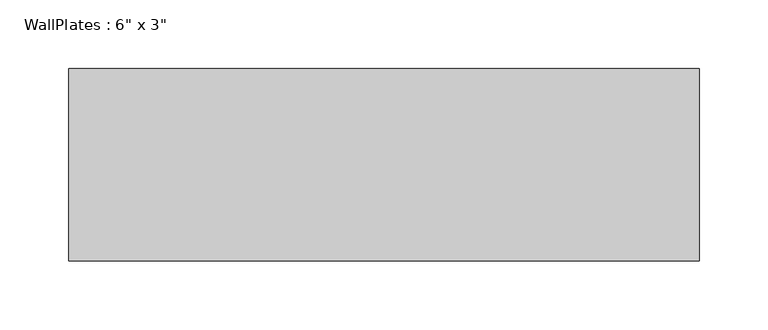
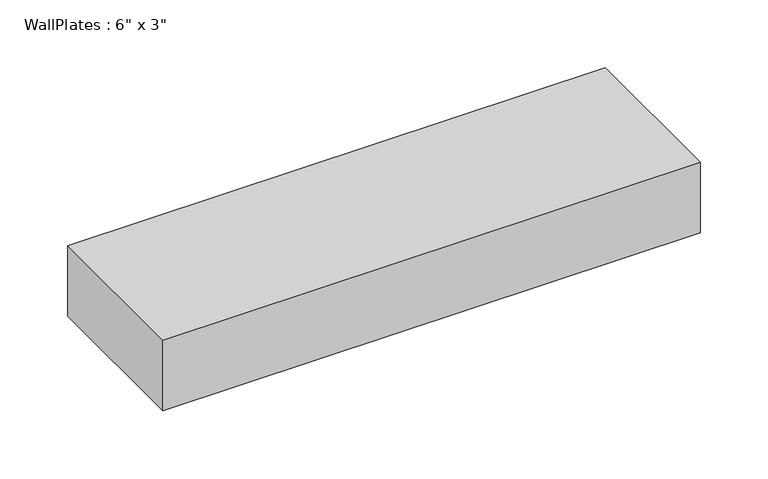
"""IFC4 building model written with IfcOpenShell, lengths in millimetres: beam geometry."""

from ifc_helpers import new_model, si_unit, frame, origin, place, context, project, spatial, polyline, outline, extrude, source, transform, mapped, element, save


def beam_dd70e189(model_context):
    return source(origin(), model_context, "Body", "SweptSolid", [
        extrude(outline(polyline([(-228.6, -69.85), (-228.6, 69.85), (228.6, 69.85), (228.6, -69.85), (-228.6, -69.85)])), frame((0.0, 0.0, -31.75), z_axis=(0.0, 0.0, 1.0), x_axis=(1.0, 0.0, 0.0)), (0.0, 0.0, 1.0), 63.5),
    ])


if __name__ == "__main__":
    model = new_model("IFC4")
    model_context = context("Model", 3, world=origin())
    ifc_project = project(units=[si_unit("LENGTHUNIT", "METRE", prefix="MILLI")], contexts=[model_context])
    site = spatial("IfcSite", under=ifc_project)
    building = spatial("IfcBuilding", under=site)
    placement = place(None, origin())
    beam_shape = beam_dd70e189(model_context)
    element("IfcBeam", 1, ObjectType="WallPlates : 6\" x 3\"", at=placement, inside=building, context=model_context, shape_type="MappedRepresentation", body=[
        mapped(beam_shape, transform((0.0, 0.0, 0.0), x_axis=(1.0, 0.0, 0.0), y_axis=(0.0, 1.0, 0.0), z_axis=(0.0, 0.0, 1.0))),
    ])
    save(model, "model.ifc")
